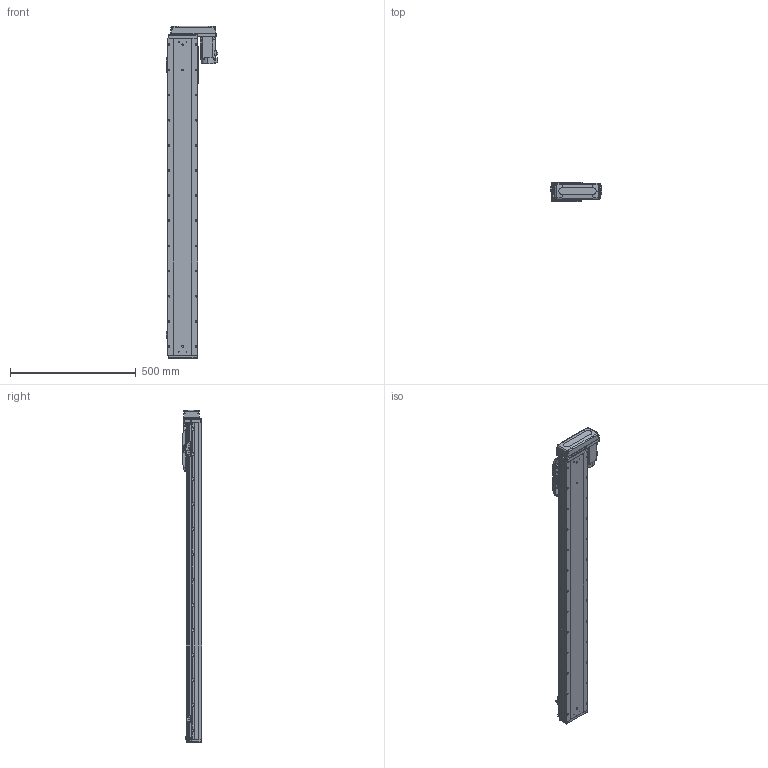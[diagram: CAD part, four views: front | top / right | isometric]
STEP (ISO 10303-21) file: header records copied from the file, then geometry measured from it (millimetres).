
FILE_DESCRIPTION (( 'STEP AP203' ), '1' );
FILE_NAME ('GTH12-1050-BL-M40-C4.step', '2025-07-16T03:40:06', ( '' ), ( '' ), 'SwSTEP 2.0', 'SolidWorks 2023', '' );
FILE_SCHEMA (( 'CONFIG_CONTROL_DESIGN' ));
Length unit declared in the file: millimetre
Products named in the file (17): GTH120-006; GBT 70.3-M3×8; GTH80-022; GTH120-003; GTH120-001_1050; 感应器总成右; GBT 70.1-M5×16; GTH120-004; GTH12-1050-BL-M40-C4; hg-kn43j_-s100_; BTH-M3X5X6; GTH120-027-1_GTH120-027-2; GBT 70.1-M3×6; GTH120-013; 感应器总成左; GTH80-028; CTHA86-033_M40B
Assembly tree (38 placements, depth 2):
  GTH12-1050-BL-M40-C4
    GTH120-001_1050
    GTH120-003
    GTH120-006
    GTH120-004
    GTH120-013
    GBT 70.1-M3×6  x2
    GBT 70.1-M5×16  x10
    GBT 70.3-M3×8  x4
    GTH80-022
    GTH80-028  x2
    BTH-M3X5X6  x8
    hg-kn43j_-s100_
    CTHA86-033_M40B
    GTH120-027-1_GTH120-027-2
    感应器总成右  x2
    感应器总成左
Bounding box: 203.5 x 76 x 1320.5 mm (x, y, z)
Volume: 9461433.2 mm3; surface area: 805807.1 mm2
Topology: 55 solids, 55 shells, 2497 faces, 5894 edges, 3633 vertices
Faces by surface type: plane 1260, cylinder 741, cone 320, torus 162, sphere 8, bspline 6
Entity records: 55652 total; most frequent: CARTESIAN_POINT 9522, DIRECTION 9453, ORIENTED_EDGE 8780, EDGE_CURVE 4390, AXIS2_PLACEMENT_3D 3297, VECTOR 2859, LINE 2859, VERTEX_POINT 2766
